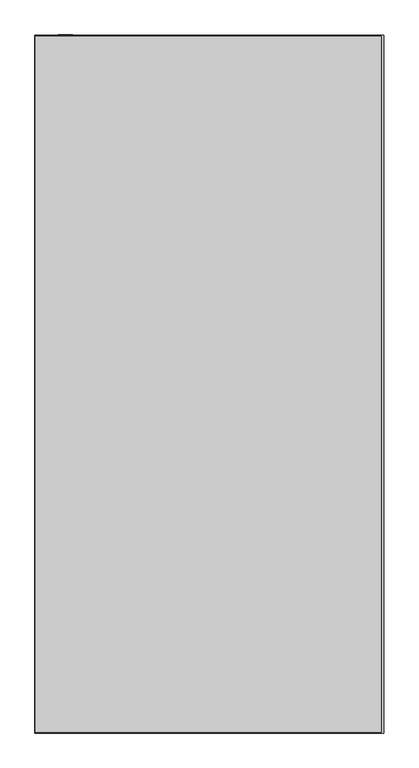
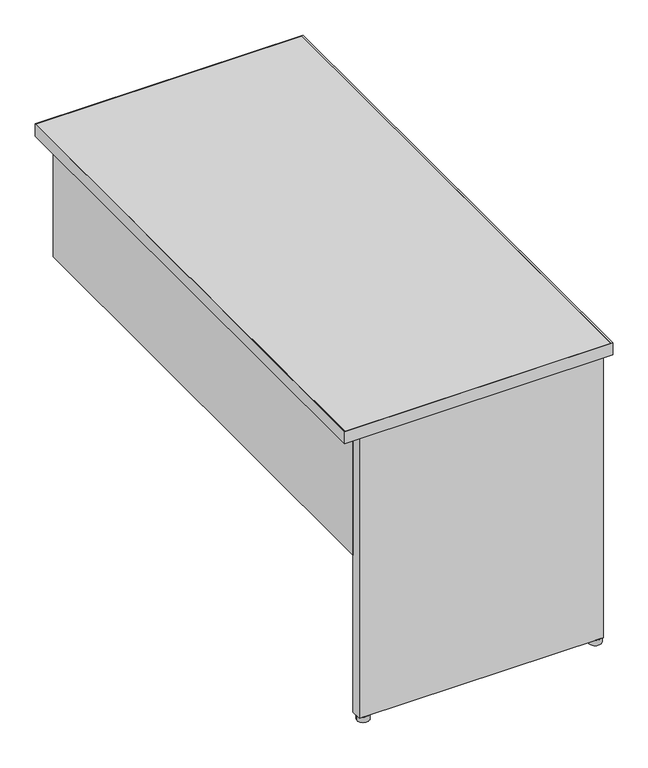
"""IFC4 building model written with IfcOpenShell, lengths in millimetres: furniture geometry, Steelcase - Kick Freestanding - Desk - Return - Partial Height Modesty Panel : 24D x 48W - Left."""

from ifc_helpers import new_model, si_unit, point, frame, frame_2d, origin, origin_with_axes, place, context, project, spatial, polyline, circle_curve, trimmed, segment, composite_curve, outline, extrude, source, transform, mapped, element, save


def furniture_87445883(model_context):
    return source(origin(), model_context, "Body", "SweptSolid", [
        extrude(outline(composite_curve([segment(trimmed(circle_curve(frame_2d((2220.2474425, -1740.6145152)), 13.97), [point((2206.2774425, -1740.6145152))], [point((2234.2174425, -1740.6145152))], False, "CARTESIAN"), True, "CONTINUOUS"), segment(trimmed(circle_curve(frame_2d((2220.2474425, -1740.6145152)), 13.97), [point((2234.2174425, -1740.6145152))], [point((2206.2774425, -1740.6145152))], False, "CARTESIAN"), True, "CONTINUOUS")], self_intersect=False)), origin_with_axes(), (0.0, 0.0, 1.0), 12.7),
        extrude(outline(composite_curve([segment(trimmed(circle_curve(frame_2d((2748.0594425, -1740.6145152)), 13.97), [point((2734.0894425, -1740.6145152))], [point((2762.0294425, -1740.6145152))], False, "CARTESIAN"), True, "CONTINUOUS"), segment(trimmed(circle_curve(frame_2d((2748.0594425, -1740.6145152)), 13.97), [point((2762.0294425, -1740.6145152))], [point((2734.0894425, -1740.6145152))], False, "CARTESIAN"), True, "CONTINUOUS")], self_intersect=False)), origin_with_axes(), (0.0, 0.0, 1.0), 12.7),
        extrude(outline(polyline([(2205.0074425, -1728.0669152), (2328.2736437, -1728.0669152), (2328.2736437, -1750.4951136), (2427.9940467, -1750.4951136), (2427.9940467, -1728.0669041), (2536.7314502, -1728.0669041), (2536.7314502, -1750.4951136), (2636.4518532, -1750.4951136), (2636.4518532, -1728.0669041), (2759.4894376, -1728.0669041), (2759.4894376, -1752.5525098), (2205.0074425, -1752.5525098), (2205.0074425, -1728.0669152)])), frame((0.0, 0.0, 12.7), z_axis=(0.0, 0.0, 1.0), x_axis=(1.0, 0.0, 0.0)), (0.0, 0.0, 1.0), 682.244),
        extrude(outline(polyline([(2230.4074426, -546.0525152), (2230.4074426, -1728.0669152), (2205.0074425, -1728.0669152), (2205.0074425, -546.0525152), (2230.4074426, -546.0525152)])), frame((0.0, 0.0, 390.144), z_axis=(0.0, 0.0, 1.0), x_axis=(1.0, 0.0, 0.0)), (0.0, 0.0, 1.0), 304.8),
        extrude(outline(polyline([(2769.2176592, -548.0845152), (2769.2176592, -1764.7445152), (2164.8500425, -1764.7445152), (2164.8500425, -548.0845152), (2769.2176592, -548.0845152)])), frame((0.0, 0.0, 694.944), z_axis=(0.0, 0.0, 1.0), x_axis=(1.0, 0.0, 0.0)), (0.0, 0.0, 1.0), 28.956),
        extrude(outline(polyline([(2773.4594425, -546.8145152), (2773.4594425, -1766.0145152), (2163.8594425, -1766.0145152), (2163.8594425, -546.8145152), (2773.4594425, -546.8145152)]), holes=[polyline([(2769.2176592, -548.0845152), (2164.8500425, -548.0845152), (2164.8500425, -1764.7445152), (2769.2176592, -1764.7445152), (2769.2176592, -548.0845152)])]), frame((0.0, 0.0, 694.944), z_axis=(0.0, 0.0, 1.0), x_axis=(1.0, 0.0, 0.0)), (0.0, 0.0, 1.0), 28.956),
    ])


if __name__ == "__main__":
    model = new_model("IFC4")
    model_context = context("Model", 3, world=origin())
    ifc_project = project(units=[si_unit("LENGTHUNIT", "METRE", prefix="MILLI")], contexts=[model_context])
    site = spatial("IfcSite", under=ifc_project)
    building = spatial("IfcBuilding", under=site)
    placement = place(None, origin())
    furniture_shape = furniture_87445883(model_context)
    element("IfcFurniture", 1, ObjectType="Steelcase - Kick Freestanding - Desk - Return - Partial Height Modesty Panel : 24D x 48W - Left", at=placement, inside=building, context=model_context, shape_type="MappedRepresentation", body=[
        mapped(furniture_shape, transform((0.0, 0.0, 0.0), x_axis=(1.0, 0.0, 0.0), y_axis=(0.0, 1.0, 0.0), z_axis=(0.0, 0.0, 1.0))),
    ])
    save(model, "model.ifc")
